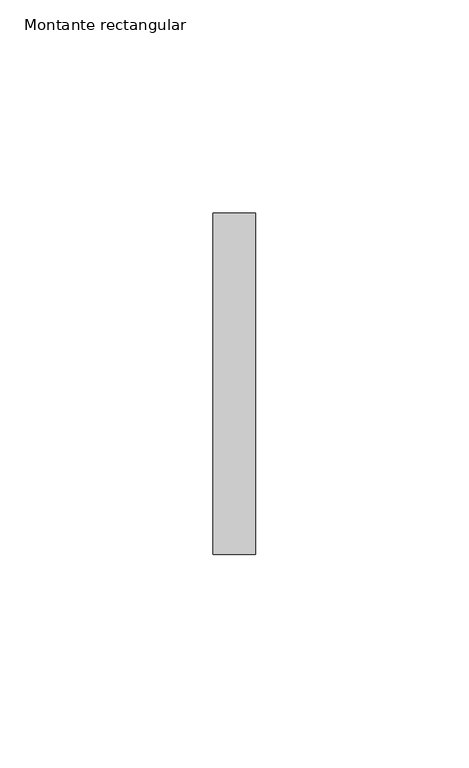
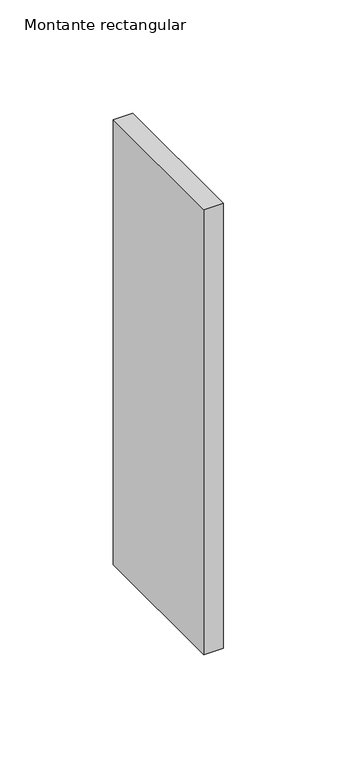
"""IFC4 building model written with IfcOpenShell, lengths in millimetres: member geometry, Montante rectangular : Junta de paves."""

from ifc_helpers import new_model, si_unit, frame, origin, place, context, project, spatial, polyline, outline, extrude, source, transform, mapped, element, save


def montante_rectangular_e8e7f79d(model_context):
    return source(origin(), model_context, "Body", "SweptSolid", [
        extrude(outline(polyline([(-10.0, 40.0), (0.0, 40.0), (0.0, -40.0), (-10.0, -40.0), (-10.0, 40.0)])), frame((0.0, 0.0, -240.0), z_axis=(0.0, 0.0, 1.0), x_axis=(1.0, 0.0, 0.0)), (0.0, 0.0, 1.0), 240.0),
    ])


if __name__ == "__main__":
    model = new_model("IFC4")
    model_context = context("Model", 3, world=origin())
    ifc_project = project(units=[si_unit("LENGTHUNIT", "METRE", prefix="MILLI")], contexts=[model_context])
    site = spatial("IfcSite", under=ifc_project)
    building = spatial("IfcBuilding", under=site)
    placement = place(None, origin())
    montante_rectangular_shape = montante_rectangular_e8e7f79d(model_context)
    element("IfcMember", 1, ObjectType="Montante rectangular : Junta de paves", at=placement, inside=building, context=model_context, shape_type="MappedRepresentation", body=[
        mapped(montante_rectangular_shape, transform((0.0, 0.0, 0.0), x_axis=(1.0, 0.0, 0.0), y_axis=(0.0, 1.0, 0.0), z_axis=(0.0, 0.0, 1.0))),
    ])
    save(model, "model.ifc")
